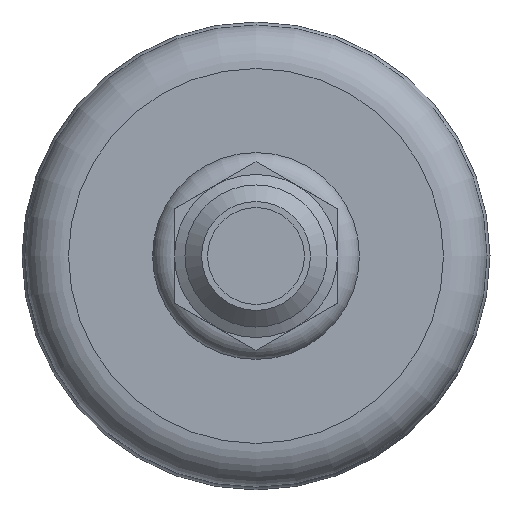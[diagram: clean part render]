
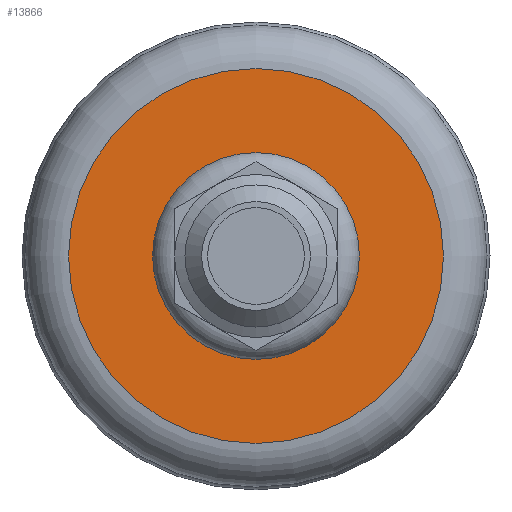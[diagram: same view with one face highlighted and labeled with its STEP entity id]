
A CAD part, front view. The second image highlights one B-rep face of the part: STEP entity #13866.
In plain terms, the highlighted planar face has unit normal (0, -1, 0).
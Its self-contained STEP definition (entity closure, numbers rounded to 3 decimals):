
#3914=PLANE('',#14680);
#4447=FACE_BOUND('',#5357,.T.);
#4557=FACE_OUTER_BOUND('',#5356,.T.);
#5356=EDGE_LOOP('',(#9819));
#5357=EDGE_LOOP('',(#9820));
#6149=CIRCLE('',#14605,17.107);
#6173=CIRCLE('',#14679,31.);
#6187=VERTEX_POINT('',#18012);
#6239=VERTEX_POINT('',#18245);
#7579=EDGE_CURVE('',#6187,#6187,#6149,.T.);
#7655=EDGE_CURVE('',#6239,#6239,#6173,.T.);
#9819=ORIENTED_EDGE('',*,*,#7655,.T.);
#9820=ORIENTED_EDGE('',*,*,#7579,.T.);
#13866=ADVANCED_FACE('',(#4557,#4447),#3914,.T.);
#14605=AXIS2_PLACEMENT_3D('',#18013,#15222,#15223);
#14679=AXIS2_PLACEMENT_3D('',#18246,#15395,#15396);
#14680=AXIS2_PLACEMENT_3D('',#18247,#15397,#15398);
#15222=DIRECTION('center_axis',(0.,1.,0.));
#15223=DIRECTION('ref_axis',(0.,0.,1.));
#15395=DIRECTION('center_axis',(0.,-1.,0.));
#15396=DIRECTION('ref_axis',(-1.,0.,0.));
#15397=DIRECTION('center_axis',(0.,-1.,0.));
#15398=DIRECTION('ref_axis',(0.,0.,-1.));
#18012=CARTESIAN_POINT('',(0.,-13.803,17.107));
#18013=CARTESIAN_POINT('Origin',(0.,-13.803,
0.));
#18245=CARTESIAN_POINT('',(-31.,-13.803,0.));
#18246=CARTESIAN_POINT('Origin',(0.,-13.803,
0.));
#18247=CARTESIAN_POINT('Origin',(-21.525,-13.803,0.));
